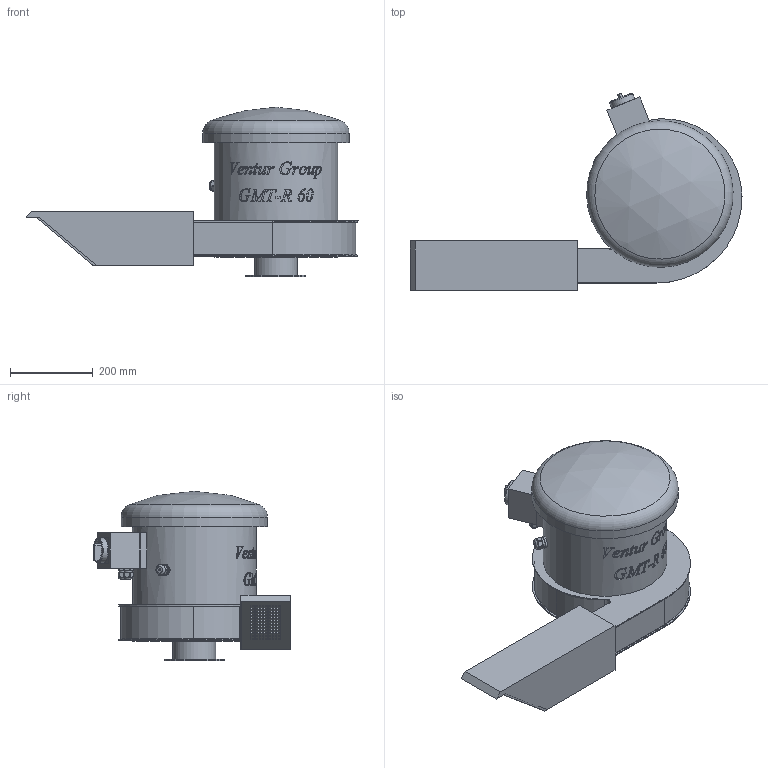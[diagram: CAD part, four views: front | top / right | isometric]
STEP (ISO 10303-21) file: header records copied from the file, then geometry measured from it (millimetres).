
FILE_DESCRIPTION(/* description */ (''),/* implementation_level */ '2;1');
FILE_NAME(/* name */ 'E:\Mariusz\Modele uproszczone\GMT-R\GMT-R_60 42552200\GMT-R_60 42552200\GMT-R_60 42552200.stp',/* time_stamp */ '2018-06-19T12:26:37+02:00',/* author */ ('M.Janczarek'),/* organization */ (''),/* preprocessor_version */ 'ST-DEVELOPER v16.5',/* originating_system */ 'Autodesk Inventor 2017',/* authorisation */ '');
FILE_SCHEMA (('AUTOMOTIVE_DESIGN { 1 0 10303 214 3 1 1 }'));
Length unit declared in the file: millimetre
Products named in the file (1): GMT-R_60 42552200
Bounding box: 804.54 x 478.78 x 410.5 mm (x, y, z)
Volume: 35641536.5 mm3; surface area: 965345.8 mm2
Topology: 1 solids, 1 shells, 1179 faces, 3092 edges, 2051 vertices
Faces by surface type: plane 652, bspline 397, cylinder 101, torus 14, cone 14, sphere 1
Full cylindrical faces by diameter (mm): 5 x1, 6 x8, 6.186 x1, 11.5 x2, 18 x2, 22.3 x1, 25 x1, 52 x1, 55 x1, 56.5 x1, 60 x1, 100 x1, 104 x1, 145 x1, 300 x2, 355 x1
Entity records: 43439 total; most frequent: CARTESIAN_POINT 15967, ORIENTED_EDGE 6134, DIRECTION 4246, EDGE_CURVE 3065, VERTEX_POINT 2056, LINE 1944, VECTOR 1944, EDGE_LOOP 1363
